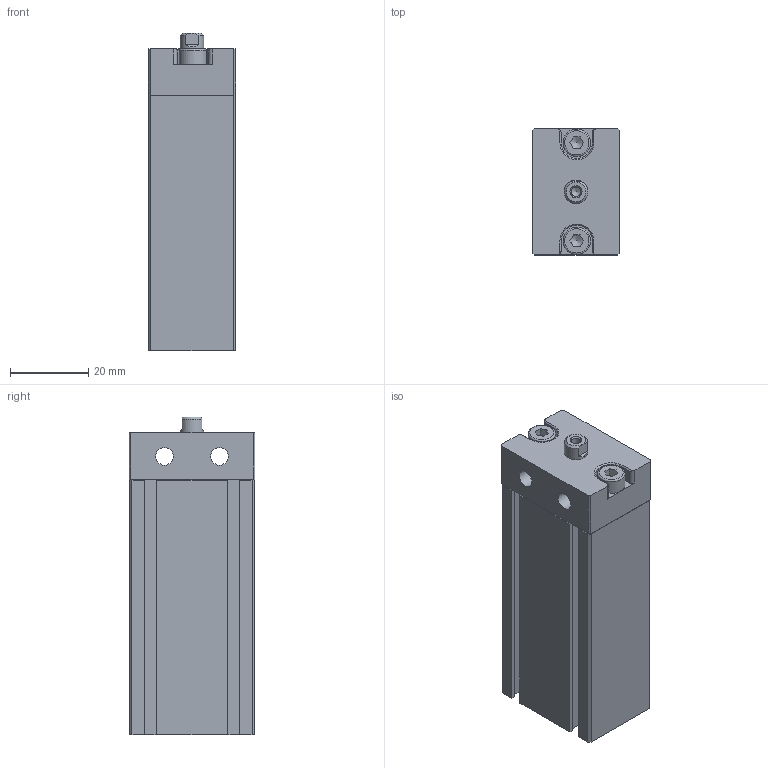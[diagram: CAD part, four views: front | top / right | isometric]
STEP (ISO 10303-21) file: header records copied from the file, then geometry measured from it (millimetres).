
FILE_DESCRIPTION((''),'2;1');
FILE_NAME('I:\3D電子目錄\氣缸\ND\ND\ND16\ND16x40.stp','2007-07-23T19:03:44',('Administrator'),(''),'Autodesk Inventor 11','Autodesk Inventor 11','');
FILE_SCHEMA(('AUTOMOTIVE_DESIGN { 1 0 10303 214 1 1 1 1 }'));
Length unit declared in the file: millimetre
Products named in the file (4): ND16; R 形環 18; ISO 4762 M4 x 10
Assembly tree (4 placements, depth 2):
  ND16
    ND16
    R 形環 18
    ISO 4762 M4 x 10  x2
Bounding box: 22.4 x 32.1 x 81 mm (x, y, z)
Volume: 47454.1 mm3; surface area: 15793.4 mm2
Topology: 5 solids, 5 shells, 170 faces, 408 edges, 261 vertices
Faces by surface type: plane 109, cylinder 26, cone 16, bspline 16, torus 3
Full cylindrical faces by diameter (mm): 1.5 x4, 4 x2, 4.5 x2, 6 x1, 7 x2, 10 x1, 18 x1, 19 x1
Entity records: 4537 total; most frequent: CARTESIAN_POINT 968, DIRECTION 708, ORIENTED_EDGE 668, EDGE_CURVE 334, AXIS2_PLACEMENT_3D 236, VECTOR 236, LINE 236, VERTEX_POINT 234
